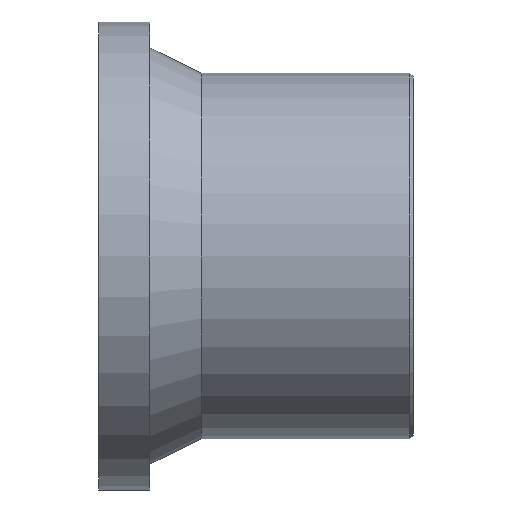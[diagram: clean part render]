
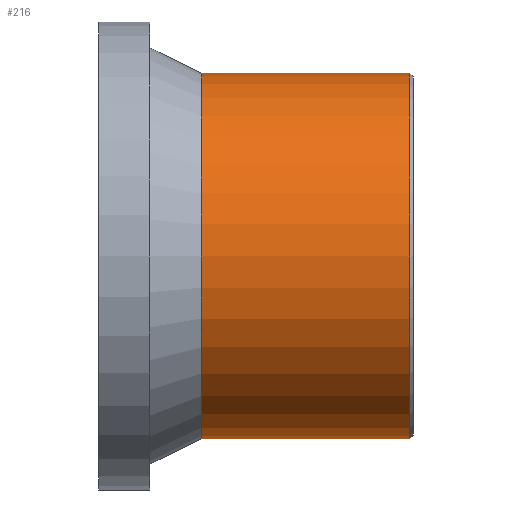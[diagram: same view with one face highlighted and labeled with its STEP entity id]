
A CAD part, front view. The second image highlights one B-rep face of the part: STEP entity #216.
In plain terms, the highlighted cylindrical face has radius 125 mm (diameter 250 mm), a full revolution.
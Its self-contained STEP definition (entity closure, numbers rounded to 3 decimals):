
#24=CYLINDRICAL_SURFACE('',#240,125.);
#34=FACE_BOUND('',#76,.T.);
#54=FACE_OUTER_BOUND('',#75,.T.);
#75=EDGE_LOOP('',(#175));
#76=EDGE_LOOP('',(#176));
#113=CIRCLE('',#238,125.);
#115=CIRCLE('',#241,125.);
#133=VERTEX_POINT('',#361);
#135=VERTEX_POINT('',#366);
#153=EDGE_CURVE('',#133,#133,#113,.T.);
#155=EDGE_CURVE('',#135,#135,#115,.T.);
#175=ORIENTED_EDGE('',*,*,#155,.T.);
#176=ORIENTED_EDGE('',*,*,#153,.F.);
#216=ADVANCED_FACE('',(#54,#34),#24,.T.);
#238=AXIS2_PLACEMENT_3D('',#362,#281,#282);
#240=AXIS2_PLACEMENT_3D('',#365,#285,#286);
#241=AXIS2_PLACEMENT_3D('',#367,#287,#288);
#281=DIRECTION('center_axis',(1.,0.,0.));
#282=DIRECTION('ref_axis',(0.,-1.,0.));
#285=DIRECTION('center_axis',(1.,0.,0.));
#286=DIRECTION('ref_axis',(0.,1.,0.));
#287=DIRECTION('center_axis',(1.,0.,0.));
#288=DIRECTION('ref_axis',(0.,0.,-1.));
#361=CARTESIAN_POINT('',(-2.5,125.,0.));
#362=CARTESIAN_POINT('Origin',(-2.5,0.,
0.));
#365=CARTESIAN_POINT('Origin',(-72.5,0.,0.));
#366=CARTESIAN_POINT('',(-145.,125.,0.));
#367=CARTESIAN_POINT('Origin',(-145.,0.,0.));
